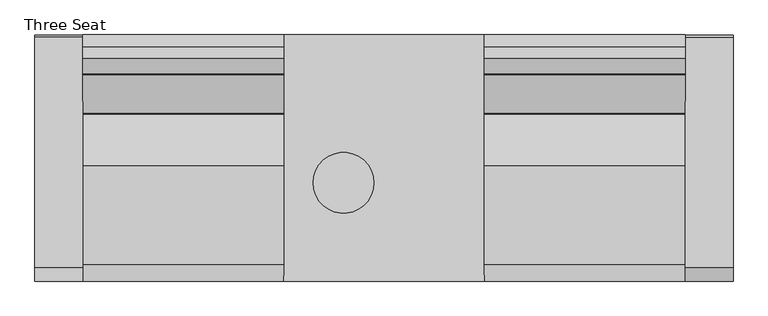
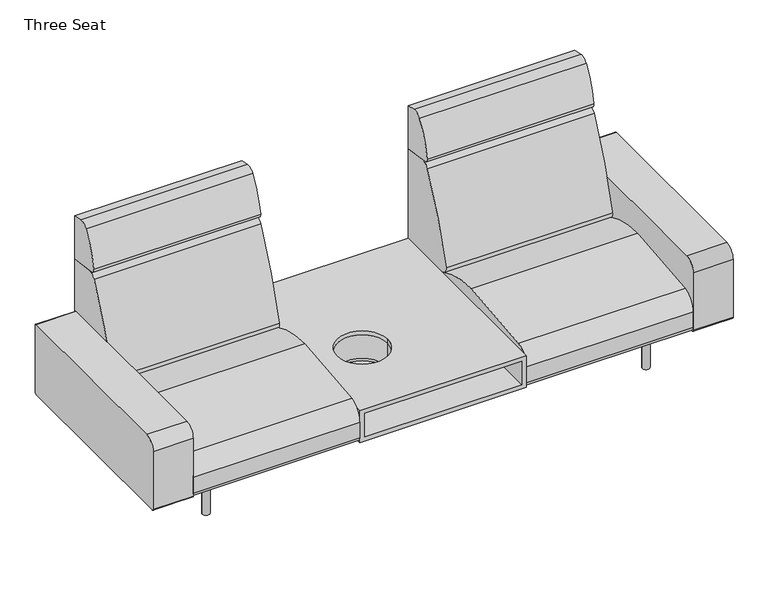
"""IFC4 building model written with IfcOpenShell, lengths in millimetres: furniture geometry, Coalesse_AM_Seating_LoungeChair_Sistema_LegBase_ThreeSeat : Three Seat."""

from ifc_helpers import new_model, si_unit, point, frame, frame_2d, origin, origin_with_axes, place, context, project, spatial, polyline, circle_curve, trimmed, segment, composite_curve, outline, extrude, source, transform, mapped, element, save
from ifc_brep_helpers import plane_surface, revolved_surface, advanced_brep


def three_seat_cafa8f5d(model_context):
    return source(origin(), model_context, "Body", "SolidModel", [
        extrude(outline(composite_curve([segment(polyline([(-461.2704381, 212.4103341), (-461.2704381, 487.0244726)]), True, "CONTINUOUS"), segment(trimmed(circle_curve(frame_2d((-410.4704381, 487.0244726)), 50.8), [point((-461.2704381, 487.0244726))], [point((-410.4704381, 537.8244726))], False, "CARTESIAN"), True, "CONTINUOUS"), segment(polyline([(-410.4704381, 537.8244726), (450.1139321, 537.8244726)]), True, "CONTINUOUS"), segment(trimmed(circle_curve(frame_2d((450.1139321, 530.2044726)), 7.62), [point((450.1139321, 537.8244726))], [point((457.7339321, 530.2044726))], False, "CARTESIAN"), True, "CONTINUOUS"), segment(polyline([(457.7339321, 530.2044726), (457.7339321, 217.4903341)]), True, "CONTINUOUS"), segment(trimmed(circle_curve(frame_2d((445.0339321, 217.4903341)), 12.7), [point((457.7339321, 217.4903341))], [point((445.0339321, 204.7903341))], False, "CARTESIAN"), True, "CONTINUOUS"), segment(polyline([(445.0339321, 204.7903341), (-453.6504381, 204.7903341)]), True, "CONTINUOUS"), segment(trimmed(circle_curve(frame_2d((-453.6504381, 212.4103341)), 7.62), [point((-453.6504381, 204.7903341))], [point((-461.2704381, 212.4103341))], False, "CARTESIAN"), True, "CONTINUOUS")], self_intersect=False)), frame((-554.3698424, 0.0, 0.0), z_axis=(1.0, 0.0, 0.0), x_axis=(0.0, 1.0, 0.0)), (0.0, 0.0, 1.0), 179.5663651),
        extrude(outline(composite_curve([segment(polyline([(459.4795619, 985.4592709), (459.4795619, 780.845009), (327.9700683, 799.327463)]), True, "CONTINUOUS"), segment(trimmed(circle_curve(frame_2d((330.6213159, 818.1920697)), 19.05), [point((327.9700683, 799.327463))], [point((311.7521971, 820.8110119))], False, "CARTESIAN"), True, "CONTINUOUS"), segment(trimmed(circle_curve(frame_2d((679.5815991, 769.7580741)), 371.3554516), [point((311.7521971, 820.8110119))], [point((372.1246101, 978.0249014))], False, "CARTESIAN"), True, "CONTINUOUS"), segment(trimmed(circle_curve(frame_2d((405.8944569, 955.1497055)), 40.7881985), [point((372.1246101, 978.0249014))], [point((414.3748002, 995.046584))], False, "CARTESIAN"), True, "CONTINUOUS"), segment(polyline([(414.3748002, 995.046584), (459.4795619, 985.4592709)]), True, "CONTINUOUS")], self_intersect=False)), frame((-374.8034773, 0.0, 0.0), z_axis=(1.0, 0.0, 0.0), x_axis=(0.0, 1.0, 0.0)), (0.0, 0.0, 1.0), 749.3),
        extrude(outline(composite_curve([segment(polyline([(459.4795619, 780.845009), (459.4795619, 228.1929806)]), True, "CONTINUOUS"), segment(trimmed(circle_curve(frame_2d((191.495971, 228.1929806)), 267.983591), [point((459.4795619, 228.1929806))], [point((458.9860775, 211.937276))], False, "CARTESIAN"), True, "CONTINUOUS"), segment(polyline([(458.9860775, 211.937276), (177.4990556, 364.1028799)]), True, "CONTINUOUS"), segment(trimmed(circle_curve(frame_2d((189.5778307, 386.4470781)), 25.4), [point((177.4990556, 364.1028799))], [point((164.9600055, 392.7018911))], False, "CARTESIAN"), True, "CONTINUOUS"), segment(trimmed(circle_curve(frame_2d((1918.112812, -52.7331923)), 1808.8552115), [point((164.9600055, 392.7018911))], [point((310.2880264, 776.0349508))], False, "CARTESIAN"), True, "CONTINUOUS"), segment(trimmed(circle_curve(frame_2d((344.1537133, 758.5785695)), 38.1), [point((310.2880264, 776.0349508))], [point((349.4562085, 796.3077829))], False, "CARTESIAN"), True, "CONTINUOUS"), segment(polyline([(349.4562085, 796.3077829), (459.4795619, 780.845009)]), True, "CONTINUOUS")], self_intersect=False)), frame((-374.8034773, 0.0, 0.0), z_axis=(1.0, 0.0, 0.0), x_axis=(0.0, 1.0, 0.0)), (0.0, 0.0, 1.0), 749.3),
        extrude(outline(composite_curve([segment(trimmed(circle_curve(frame_2d((-438.9184381, 226.822)), 22.352), [point((-438.9184381, 204.47))], [point((-461.2704381, 226.822))], False, "CARTESIAN"), True, "CONTINUOUS"), segment(polyline([(-461.2704381, 226.822), (-461.2704381, 301.4421993)]), True, "CONTINUOUS"), segment(trimmed(circle_curve(frame_2d((-385.0704381, 301.4421993)), 76.2), [point((-461.2704381, 301.4421993))], [point((-398.9277015, 376.3716077))], False, "CARTESIAN"), True, "CONTINUOUS"), segment(trimmed(circle_curve(frame_2d((2.2103559, -1792.6740646)), 2205.8265729), [point((-398.9277015, 376.3716077))], [point((-31.1968175, 412.8995185))], False, "CARTESIAN"), True, "CONTINUOUS"), segment(trimmed(circle_curve(frame_2d((-24.5128424, -28.3829182)), 441.333054), [point((-31.1968175, 412.8995185))], [point((184.5757008, 360.2774035))], False, "CARTESIAN"), True, "CONTINUOUS"), segment(polyline([(184.5757008, 360.2774035), (458.9860775, 211.937276)]), True, "CONTINUOUS"), segment(trimmed(circle_curve(frame_2d((442.3266309, 226.7871991)), 22.3171991), [point((458.9860775, 211.937276))], [point((442.3266309, 204.47))], False, "CARTESIAN"), True, "CONTINUOUS"), segment(polyline([(442.3266309, 204.47), (-438.9184381, 204.47)]), True, "CONTINUOUS")], self_intersect=False)), frame((-374.8034773, 0.0, 0.0), z_axis=(1.0, 0.0, 0.0), x_axis=(0.0, 1.0, 0.0)), (0.0, 0.0, 1.0), 749.3),
        advanced_brep(
        [(1102.9069667, -461.2704381, 336.5211742), (396.2928302, -461.2704381, 336.5211742), (396.2928302, 459.4795619, 336.5211742), (1102.9069667, 459.4795619, 336.5211742), (711.5952223, -93.7879891, 336.5211742), (484.2332034, -93.7879891, 336.5211742), (396.2928302, -461.2704381, 223.173587), (396.2928302, 459.4795619, 223.173587), (1123.7965227, -461.2704381, 354.7774), (374.4965227, -461.2704381, 354.7774), (374.4965227, -461.2704381, 204.47), (1123.7965227, -461.2704381, 204.47), (1102.9069667, -461.2704381, 223.173587), (1123.7965227, 459.4795619, 354.7774), (1123.7965227, 459.4795619, 204.47), (374.4965227, 459.4795619, 204.47), (374.4965227, 459.4795619, 354.7774), (1102.9069667, 459.4795619, 223.173587), (484.2332034, -93.7879891, 354.7774), (711.5952223, -93.7879891, 354.7774), (484.2332034, -93.7879891, 223.173587), (711.5952223, -93.7879891, 223.173587), (484.2332034, -93.7879891, 212.4123377), (711.5952223, -93.7879891, 212.4123377)],
        [
            (0, 1),
            (1, 2),
            (2, 3),
            (3, 0),
            (4, 5, circle_curve(frame((597.9142128, -93.7879891, 336.5211742), z_axis=(0.0, 0.0, 1.0), x_axis=(1.0, 0.0, 0.0)), 113.6810095)),
            (5, 4, circle_curve(frame((597.9142128, -93.7879891, 336.5211742), z_axis=(0.0, 0.0, 1.0), x_axis=(1.0, 0.0, 0.0)), 113.6810095)),
            (1, 6),
            (6, 7),
            (7, 2),
            (8, 9),
            (9, 10),
            (10, 11),
            (11, 8),
            (0, 12),
            (12, 6),
            (13, 14),
            (14, 15),
            (15, 16),
            (16, 13),
            (7, 17),
            (17, 3),
            (8, 13),
            (16, 9),
            (18, 19, circle_curve(frame((597.9142128, -93.7879891, 354.7774), z_axis=(0.0, 0.0, -1.0), x_axis=(1.0, 0.0, 0.0)), 113.6810095)),
            (19, 18, circle_curve(frame((597.9142128, -93.7879891, 354.7774), z_axis=(0.0, 0.0, -1.0), x_axis=(1.0, 0.0, 0.0)), 113.6810095)),
            (15, 10),
            (14, 11),
            (17, 12),
            (20, 21, circle_curve(frame((597.9142128, -93.7879891, 223.173587), z_axis=(0.0, 0.0, -1.0), x_axis=(1.0, 0.0, 0.0)), 113.6810095)),
            (21, 20, circle_curve(frame((597.9142128, -93.7879891, 223.173587), z_axis=(0.0, 0.0, -1.0), x_axis=(1.0, 0.0, 0.0)), 113.6810095)),
            (22, 23, circle_curve(frame((597.9142128, -93.7879891, 212.4123377), z_axis=(0.0, 0.0, 1.0), x_axis=(1.0, 0.0, 0.0)), 113.6810095)),
            (23, 22, circle_curve(frame((597.9142128, -93.7879891, 212.4123377), z_axis=(0.0, 0.0, 1.0), x_axis=(1.0, 0.0, 0.0)), 113.6810095)),
            (23, 21),
            (20, 22),
            (18, 5),
            (4, 19),
        ],
        [
            plane_surface(frame((396.2928302, -461.2704381, 336.5211742), z_axis=(0.0, 0.0, -1.0), x_axis=(0.0, 1.0, 0.0))),
            plane_surface(frame((396.2928302, -461.2704381, 223.173587), z_axis=(1.0, 0.0, 0.0), x_axis=(0.0, 1.0, 0.0))),
            plane_surface(frame((378.0346424, -461.2704381, 354.7774), z_axis=(0.0, -1.0, 0.0), x_axis=(-1.0, 0.0, 0.0))),
            plane_surface(frame((378.0346424, 459.4795619, 354.7774), z_axis=(0.0, 1.0, 0.0), x_axis=(1.0, 0.0, 0.0))),
            plane_surface(frame((1123.7965227, -461.2704381, 354.7774), z_axis=(0.0, 0.0, 1.0), x_axis=(0.0, 1.0, 0.0))),
            plane_surface(frame((374.4965227, -461.2704381, 354.7774), z_axis=(-1.0, 0.0, 0.0), x_axis=(0.0, 1.0, 0.0))),
            plane_surface(frame((374.4965227, -461.2704381, 204.47), z_axis=(0.0, 0.0, -1.0), x_axis=(0.0, 1.0, 0.0))),
            plane_surface(frame((1123.7965227, -461.2704381, 204.47), z_axis=(1.0, 0.0, 0.0), x_axis=(0.0, 1.0, 0.0))),
            plane_surface(frame((1102.9069667, -461.2704381, 336.5211742), z_axis=(-1.0, 0.0, 0.0), x_axis=(0.0, 1.0, 0.0))),
            plane_surface(frame((1102.9069667, -461.2704381, 223.173587), z_axis=(0.0, 0.0, 1.0), x_axis=(0.0, 1.0, 0.0))),
            plane_surface(frame((711.5952223, -93.7879891, 212.4123377), z_axis=(0.0, 0.0, 1.0), x_axis=(0.0, -1.0, 0.0))),
            revolved_surface(polyline([(711.5952222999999, -93.7879891, 212.41233770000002), (711.5952222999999, -93.7879891, 223.173587)]), (597.9142128, -93.7879891, 496.2226929), (0.0, 0.0, -1.0)),
            revolved_surface(polyline([(711.5952222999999, -93.7879891, 336.5211742), (711.5952222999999, -93.7879891, 354.7774)]), (597.9142128, -93.7879891, 496.2226929), (0.0, 0.0, -1.0)),
        ],
        [
            (0, [[1, 2, 3, 4], [5, 6]]),
            (1, [[7, 8, 9, -2]]),
            (2, [[10, 11, 12, 13], [14, 15, -7, -1]]),
            (3, [[16, 17, 18, 19], [-3, -9, 20, 21]]),
            (4, [[-10, 22, -19, 23], [24, 25]]),
            (5, [[-11, -23, -18, 26]]),
            (6, [[-12, -26, -17, 27]]),
            (7, [[-13, -27, -16, -22]]),
            (8, [[-14, -4, -21, 28]]),
            (9, [[-15, -28, -20, -8], [29, 30]]),
            (10, [[31, 32]]),
            (11, [[-32, 33, -29, 34]]),
            (12, [[35, -5, 36, -24]]),
            (11, [[-31, -34, -30, -33]]),
            (12, [[-35, -25, -36, -6]]),
        ],
    ),
        extrude(outline(composite_curve([segment(trimmed(circle_curve(frame_2d((597.9142128, -93.7879891)), 127.924967), [point((469.9892458, -93.7879891))], [point((725.8391799, -93.7879891))], False, "CARTESIAN"), True, "CONTINUOUS"), segment(trimmed(circle_curve(frame_2d((597.9142128, -93.7879891)), 127.924967), [point((725.8391799, -93.7879891))], [point((469.9892458, -93.7879891))], False, "CARTESIAN"), True, "CONTINUOUS")], self_intersect=False), holes=[composite_curve([segment(trimmed(circle_curve(frame_2d((597.9142128, -93.7879891)), 113.6810095), [point((484.2332034, -93.7879891))], [point((711.5952223, -93.7879891))], True, "CARTESIAN"), True, "CONTINUOUS"), segment(trimmed(circle_curve(frame_2d((597.9142128, -93.7879891)), 113.6810095), [point((711.5952223, -93.7879891))], [point((484.2332034, -93.7879891))], True, "CARTESIAN"), True, "CONTINUOUS")], self_intersect=False)]), frame((0.0, 0.0, 212.4123377), z_axis=(0.0, 0.0, 1.0), x_axis=(1.0, 0.0, 0.0)), (0.0, 0.0, 1.0), 124.1087275),
        extrude(outline(composite_curve([segment(polyline([(-461.2704381, 212.4103341), (-461.2704381, 487.0244726)]), True, "CONTINUOUS"), segment(trimmed(circle_curve(frame_2d((-410.4704381, 487.0244726)), 50.8), [point((-461.2704381, 487.0244726))], [point((-410.4704381, 537.8244726))], False, "CARTESIAN"), True, "CONTINUOUS"), segment(polyline([(-410.4704381, 537.8244726), (450.1139321, 537.8244726)]), True, "CONTINUOUS"), segment(trimmed(circle_curve(frame_2d((450.1139321, 530.2044726)), 7.62), [point((450.1139321, 537.8244726))], [point((457.7339321, 530.2044726))], False, "CARTESIAN"), True, "CONTINUOUS"), segment(polyline([(457.7339321, 530.2044726), (457.7339321, 217.4903341)]), True, "CONTINUOUS"), segment(trimmed(circle_curve(frame_2d((445.0339321, 217.4903341)), 12.7), [point((457.7339321, 217.4903341))], [point((445.0339321, 204.7903341))], False, "CARTESIAN"), True, "CONTINUOUS"), segment(polyline([(445.0339321, 204.7903341), (-453.6504381, 204.7903341)]), True, "CONTINUOUS"), segment(trimmed(circle_curve(frame_2d((-453.6504381, 212.4103341)), 7.62), [point((-453.6504381, 204.7903341))], [point((-461.2704381, 212.4103341))], False, "CARTESIAN"), True, "CONTINUOUS")], self_intersect=False)), frame((1873.0965227, 0.0, 0.0), z_axis=(1.0, 0.0, 0.0), x_axis=(0.0, 1.0, 0.0)), (0.0, 0.0, 1.0), 179.5663651),
        extrude(outline(composite_curve([segment(polyline([(459.4795619, 985.4592709), (459.4795619, 780.845009), (327.9700683, 799.327463)]), True, "CONTINUOUS"), segment(trimmed(circle_curve(frame_2d((330.6213159, 818.1920697)), 19.05), [point((327.9700683, 799.327463))], [point((311.7521971, 820.8110119))], False, "CARTESIAN"), True, "CONTINUOUS"), segment(trimmed(circle_curve(frame_2d((679.5815991, 769.7580741)), 371.3554516), [point((311.7521971, 820.8110119))], [point((372.1246101, 978.0249014))], False, "CARTESIAN"), True, "CONTINUOUS"), segment(trimmed(circle_curve(frame_2d((405.8944569, 955.1497055)), 40.7881985), [point((372.1246101, 978.0249014))], [point((414.3748002, 995.046584))], False, "CARTESIAN"), True, "CONTINUOUS"), segment(polyline([(414.3748002, 995.046584), (459.4795619, 985.4592709)]), True, "CONTINUOUS")], self_intersect=False)), frame((1123.7965227, 0.0, 0.0), z_axis=(1.0, 0.0, 0.0), x_axis=(0.0, 1.0, 0.0)), (0.0, 0.0, 1.0), 749.3),
        extrude(outline(composite_curve([segment(polyline([(459.4795619, 780.845009), (459.4795619, 228.1929806)]), True, "CONTINUOUS"), segment(trimmed(circle_curve(frame_2d((191.495971, 228.1929806)), 267.983591), [point((459.4795619, 228.1929806))], [point((458.9860775, 211.937276))], False, "CARTESIAN"), True, "CONTINUOUS"), segment(polyline([(458.9860775, 211.937276), (177.4990556, 364.1028799)]), True, "CONTINUOUS"), segment(trimmed(circle_curve(frame_2d((189.5778307, 386.4470781)), 25.4), [point((177.4990556, 364.1028799))], [point((164.9600055, 392.7018911))], False, "CARTESIAN"), True, "CONTINUOUS"), segment(trimmed(circle_curve(frame_2d((1918.112812, -52.7331923)), 1808.8552115), [point((164.9600055, 392.7018911))], [point((310.2880264, 776.0349508))], False, "CARTESIAN"), True, "CONTINUOUS"), segment(trimmed(circle_curve(frame_2d((344.1537133, 758.5785695)), 38.1), [point((310.2880264, 776.0349508))], [point((349.4562085, 796.3077829))], False, "CARTESIAN"), True, "CONTINUOUS"), segment(polyline([(349.4562085, 796.3077829), (459.4795619, 780.845009)]), True, "CONTINUOUS")], self_intersect=False)), frame((1123.7965227, 0.0, 0.0), z_axis=(1.0, 0.0, 0.0), x_axis=(0.0, 1.0, 0.0)), (0.0, 0.0, 1.0), 749.3),
        extrude(outline(composite_curve([segment(trimmed(circle_curve(frame_2d((-438.9184381, 226.822)), 22.352), [point((-438.9184381, 204.47))], [point((-461.2704381, 226.822))], False, "CARTESIAN"), True, "CONTINUOUS"), segment(polyline([(-461.2704381, 226.822), (-461.2704381, 301.4421993)]), True, "CONTINUOUS"), segment(trimmed(circle_curve(frame_2d((-385.0704381, 301.4421993)), 76.2), [point((-461.2704381, 301.4421993))], [point((-398.9277015, 376.3716077))], False, "CARTESIAN"), True, "CONTINUOUS"), segment(trimmed(circle_curve(frame_2d((2.2103559, -1792.6740646)), 2205.8265729), [point((-398.9277015, 376.3716077))], [point((-31.1968175, 412.8995185))], False, "CARTESIAN"), True, "CONTINUOUS"), segment(trimmed(circle_curve(frame_2d((-24.5128424, -28.3829182)), 441.333054), [point((-31.1968175, 412.8995185))], [point((184.5757008, 360.2774035))], False, "CARTESIAN"), True, "CONTINUOUS"), segment(polyline([(184.5757008, 360.2774035), (458.9860775, 211.937276)]), True, "CONTINUOUS"), segment(trimmed(circle_curve(frame_2d((442.3266309, 226.7871991)), 22.3171991), [point((458.9860775, 211.937276))], [point((442.3266309, 204.47))], False, "CARTESIAN"), True, "CONTINUOUS"), segment(polyline([(442.3266309, 204.47), (-438.9184381, 204.47)]), True, "CONTINUOUS")], self_intersect=False)), frame((1123.7965227, 0.0, 0.0), z_axis=(1.0, 0.0, 0.0), x_axis=(0.0, 1.0, 0.0)), (0.0, 0.0, 1.0), 749.3),
        extrude(outline(composite_curve([segment(trimmed(circle_curve(frame_2d((1738.4765227, 335.9943389)), 6.096), [point((1744.5725227, 335.9943389))], [point((1732.3805227, 335.9943389))], False, "CARTESIAN"), True, "CONTINUOUS"), segment(trimmed(circle_curve(frame_2d((1738.4765227, 335.9943389)), 6.096), [point((1732.3805227, 335.9943389))], [point((1744.5725227, 335.9943389))], False, "CARTESIAN"), True, "CONTINUOUS")], self_intersect=False)), origin_with_axes(), (0.0, 0.0, 1.0), 4.3662291),
        extrude(outline(composite_curve([segment(trimmed(circle_curve(frame_2d((1738.4765227, -327.2630889)), 6.096), [point((1744.5725227, -327.2630889))], [point((1732.3805227, -327.2630889))], False, "CARTESIAN"), True, "CONTINUOUS"), segment(trimmed(circle_curve(frame_2d((1738.4765227, -327.2630889)), 6.096), [point((1732.3805227, -327.2630889))], [point((1744.5725227, -327.2630889))], False, "CARTESIAN"), True, "CONTINUOUS")], self_intersect=False)), origin_with_axes(), (0.0, 0.0, 1.0), 4.3662291),
        extrude(outline(composite_curve([segment(polyline([(157.0399209, 1751.056375), (201.7356243, 1751.056375)]), True, "CONTINUOUS"), segment(trimmed(circle_curve(frame_2d((201.7356243, 1748.008375)), 3.048), [point((201.7356243, 1751.056375))], [point((204.7836243, 1748.008375))], False, "CARTESIAN"), True, "CONTINUOUS"), segment(polyline([(204.7836243, 1748.008375), (204.7836243, 1728.666199)]), True, "CONTINUOUS"), segment(trimmed(circle_curve(frame_2d((201.7356243, 1728.666199)), 3.048), [point((204.7836243, 1728.666199))], [point((201.7356243, 1725.618199))], False, "CARTESIAN"), True, "CONTINUOUS"), segment(polyline([(201.7356243, 1725.618199), (157.1249936, 1725.618199)]), True, "CONTINUOUS"), segment(trimmed(circle_curve(frame_2d((157.1249936, 1728.7512718)), 3.1330728), [point((157.1249936, 1725.618199))], [point((153.9919209, 1728.7512718))], False, "CARTESIAN"), True, "CONTINUOUS"), segment(polyline([(153.9919209, 1728.7512718), (153.9919209, 1748.008375)]), True, "CONTINUOUS"), segment(trimmed(circle_curve(frame_2d((157.0399209, 1748.008375)), 3.048), [point((153.9919209, 1748.008375))], [point((157.0399209, 1751.056375))], False, "CARTESIAN"), True, "CONTINUOUS")], self_intersect=False)), frame((0.0, 222.3519802, 0.0), z_axis=(0.0, 1.0, 0.0), x_axis=(0.0, 0.0, 1.0)), (0.0, 0.0, 1.0), 92.6273161),
        extrude(outline(composite_curve([segment(polyline([(157.0399209, 1751.056375), (201.7356243, 1751.056375)]), True, "CONTINUOUS"), segment(trimmed(circle_curve(frame_2d((201.7356243, 1748.008375)), 3.048), [point((201.7356243, 1751.056375))], [point((204.7836243, 1748.008375))], False, "CARTESIAN"), True, "CONTINUOUS"), segment(polyline([(204.7836243, 1748.008375), (204.7836243, 1728.666199)]), True, "CONTINUOUS"), segment(trimmed(circle_curve(frame_2d((201.7356243, 1728.666199)), 3.048), [point((204.7836243, 1728.666199))], [point((201.7356243, 1725.618199))], False, "CARTESIAN"), True, "CONTINUOUS"), segment(polyline([(201.7356243, 1725.618199), (157.1249936, 1725.618199)]), True, "CONTINUOUS"), segment(trimmed(circle_curve(frame_2d((157.1249936, 1728.7512718)), 3.1330728), [point((157.1249936, 1725.618199))], [point((153.9919209, 1728.7512718))], False, "CARTESIAN"), True, "CONTINUOUS"), segment(polyline([(153.9919209, 1728.7512718), (153.9919209, 1748.008375)]), True, "CONTINUOUS"), segment(trimmed(circle_curve(frame_2d((157.0399209, 1748.008375)), 3.048), [point((153.9919209, 1748.008375))], [point((157.0399209, 1751.056375))], False, "CARTESIAN"), True, "CONTINUOUS")], self_intersect=False)), frame((0.0, -314.9792963, 0.0), z_axis=(0.0, 1.0, 0.0), x_axis=(0.0, 0.0, 1.0)), (0.0, 0.0, 1.0), 92.6273161),
        extrude(outline(composite_curve([segment(trimmed(circle_curve(frame_2d((176.3356606, 1715.8259944)), 3.048), [point((179.3836606, 1715.8259944))], [point((176.3356606, 1712.7779944))], False, "CARTESIAN"), True, "CONTINUOUS"), segment(polyline([(176.3356606, 1712.7779944), (157.0399209, 1712.7779944)]), True, "CONTINUOUS"), segment(trimmed(circle_curve(frame_2d((157.0399209, 1715.8259944)), 3.048), [point((157.0399209, 1712.7779944))], [point((153.9919209, 1715.8259944))], False, "CARTESIAN"), True, "CONTINUOUS"), segment(polyline([(153.9919209, 1715.8259944), (153.9919209, 1760.5135501)]), True, "CONTINUOUS"), segment(trimmed(circle_curve(frame_2d((157.056462, 1760.5135501)), 3.0645412), [point((153.9919209, 1760.5135501))], [point((157.056462, 1763.5780913))], False, "CARTESIAN"), True, "CONTINUOUS"), segment(polyline([(157.056462, 1763.5780913), (176.3356606, 1763.5780913)]), True, "CONTINUOUS"), segment(trimmed(circle_curve(frame_2d((176.3356606, 1760.5300913)), 3.048), [point((176.3356606, 1763.5780913))], [point((179.3836606, 1760.5300913))], False, "CARTESIAN"), True, "CONTINUOUS"), segment(polyline([(179.3836606, 1760.5300913), (179.3836606, 1715.8259944)]), True, "CONTINUOUS")], self_intersect=False)), frame((0.0, -222.3519802, 0.0), z_axis=(0.0, 1.0, 0.0), x_axis=(0.0, 0.0, 1.0)), (0.0, 0.0, 1.0), 444.7039604),
        extrude(outline(composite_curve([segment(trimmed(circle_curve(frame_2d((1738.4765227, 332.3095741)), 16.51), [point((1754.9865227, 332.3095741))], [point((1721.9665227, 332.3095741))], False, "CARTESIAN"), True, "CONTINUOUS"), segment(trimmed(circle_curve(frame_2d((1738.4765227, 332.3095741)), 16.51), [point((1721.9665227, 332.3095741))], [point((1754.9865227, 332.3095741))], False, "CARTESIAN"), True, "CONTINUOUS")], self_intersect=False)), frame((0.0, 0.0, 4.3662291), z_axis=(0.0, 0.0, 1.0), x_axis=(1.0, 0.0, 0.0)), (0.0, 0.0, 1.0), 200.1037709),
        extrude(outline(composite_curve([segment(trimmed(circle_curve(frame_2d((1738.0796477, -327.5470741)), 16.51), [point((1754.5896477, -327.5470741))], [point((1721.5696477, -327.5470741))], False, "CARTESIAN"), True, "CONTINUOUS"), segment(trimmed(circle_curve(frame_2d((1738.0796477, -327.5470741)), 16.51), [point((1721.5696477, -327.5470741))], [point((1754.5896477, -327.5470741))], False, "CARTESIAN"), True, "CONTINUOUS")], self_intersect=False)), frame((0.0, 0.0, 4.3662291), z_axis=(0.0, 0.0, 1.0), x_axis=(1.0, 0.0, 0.0)), (0.0, 0.0, 1.0), 200.1037709),
        extrude(outline(composite_curve([segment(trimmed(circle_curve(frame_2d((-240.1834773, 335.9943389)), 6.096), [point((-246.2794773, 335.9943389))], [point((-234.0874773, 335.9943389))], False, "CARTESIAN"), True, "CONTINUOUS"), segment(trimmed(circle_curve(frame_2d((-240.1834773, 335.9943389)), 6.096), [point((-234.0874773, 335.9943389))], [point((-246.2794773, 335.9943389))], False, "CARTESIAN"), True, "CONTINUOUS")], self_intersect=False)), origin_with_axes(), (0.0, 0.0, 1.0), 4.3662291),
        extrude(outline(composite_curve([segment(trimmed(circle_curve(frame_2d((-240.1834773, -327.2630889)), 6.096), [point((-246.2794773, -327.2630889))], [point((-234.0874773, -327.2630889))], False, "CARTESIAN"), True, "CONTINUOUS"), segment(trimmed(circle_curve(frame_2d((-240.1834773, -327.2630889)), 6.096), [point((-234.0874773, -327.2630889))], [point((-246.2794773, -327.2630889))], False, "CARTESIAN"), True, "CONTINUOUS")], self_intersect=False)), origin_with_axes(), (0.0, 0.0, 1.0), 4.3662291),
        extrude(outline(composite_curve([segment(trimmed(circle_curve(frame_2d((157.0399209, -249.7153296)), 3.048), [point((157.0399209, -252.7633296))], [point((153.9919209, -249.7153296))], False, "CARTESIAN"), True, "CONTINUOUS"), segment(polyline([(153.9919209, -249.7153296), (153.9919209, -230.4582264)]), True, "CONTINUOUS"), segment(trimmed(circle_curve(frame_2d((157.1249936, -230.4582264)), 3.1330728), [point((153.9919209, -230.4582264))], [point((157.1249936, -227.3251537))], False, "CARTESIAN"), True, "CONTINUOUS"), segment(polyline([(157.1249936, -227.3251537), (201.7356243, -227.3251537)]), True, "CONTINUOUS"), segment(trimmed(circle_curve(frame_2d((201.7356243, -230.3731537)), 3.048), [point((201.7356243, -227.3251537))], [point((204.7836243, -230.3731537))], False, "CARTESIAN"), True, "CONTINUOUS"), segment(polyline([(204.7836243, -230.3731537), (204.7836243, -249.7153296)]), True, "CONTINUOUS"), segment(trimmed(circle_curve(frame_2d((201.7356243, -249.7153296)), 3.048), [point((204.7836243, -249.7153296))], [point((201.7356243, -252.7633296))], False, "CARTESIAN"), True, "CONTINUOUS"), segment(polyline([(201.7356243, -252.7633296), (157.0399209, -252.7633296)]), True, "CONTINUOUS")], self_intersect=False)), frame((0.0, 222.3519802, 0.0), z_axis=(0.0, 1.0, 0.0), x_axis=(0.0, 0.0, 1.0)), (0.0, 0.0, 1.0), 92.6273161),
        extrude(outline(composite_curve([segment(trimmed(circle_curve(frame_2d((157.0399209, -249.7153296)), 3.048), [point((157.0399209, -252.7633296))], [point((153.9919209, -249.7153296))], False, "CARTESIAN"), True, "CONTINUOUS"), segment(polyline([(153.9919209, -249.7153296), (153.9919209, -230.4582264)]), True, "CONTINUOUS"), segment(trimmed(circle_curve(frame_2d((157.1249936, -230.4582264)), 3.1330728), [point((153.9919209, -230.4582264))], [point((157.1249936, -227.3251537))], False, "CARTESIAN"), True, "CONTINUOUS"), segment(polyline([(157.1249936, -227.3251537), (201.7356243, -227.3251537)]), True, "CONTINUOUS"), segment(trimmed(circle_curve(frame_2d((201.7356243, -230.3731537)), 3.048), [point((201.7356243, -227.3251537))], [point((204.7836243, -230.3731537))], False, "CARTESIAN"), True, "CONTINUOUS"), segment(polyline([(204.7836243, -230.3731537), (204.7836243, -249.7153296)]), True, "CONTINUOUS"), segment(trimmed(circle_curve(frame_2d((201.7356243, -249.7153296)), 3.048), [point((204.7836243, -249.7153296))], [point((201.7356243, -252.7633296))], False, "CARTESIAN"), True, "CONTINUOUS"), segment(polyline([(201.7356243, -252.7633296), (157.0399209, -252.7633296)]), True, "CONTINUOUS")], self_intersect=False)), frame((0.0, -314.9792963, 0.0), z_axis=(0.0, 1.0, 0.0), x_axis=(0.0, 0.0, 1.0)), (0.0, 0.0, 1.0), 92.6273161),
        extrude(outline(composite_curve([segment(polyline([(179.3836606, -217.532949), (179.3836606, -262.2370459)]), True, "CONTINUOUS"), segment(trimmed(circle_curve(frame_2d((176.3356606, -262.2370459)), 3.048), [point((179.3836606, -262.2370459))], [point((176.3356606, -265.2850459))], False, "CARTESIAN"), True, "CONTINUOUS"), segment(polyline([(176.3356606, -265.2850459), (157.056462, -265.2850459)]), True, "CONTINUOUS"), segment(trimmed(circle_curve(frame_2d((157.056462, -262.2205047)), 3.0645412), [point((157.056462, -265.2850459))], [point((153.9919209, -262.2205047))], False, "CARTESIAN"), True, "CONTINUOUS"), segment(polyline([(153.9919209, -262.2205047), (153.9919209, -217.532949)]), True, "CONTINUOUS"), segment(trimmed(circle_curve(frame_2d((157.0399209, -217.532949)), 3.048), [point((153.9919209, -217.532949))], [point((157.0399209, -214.484949))], False, "CARTESIAN"), True, "CONTINUOUS"), segment(polyline([(157.0399209, -214.484949), (176.3356606, -214.484949)]), True, "CONTINUOUS"), segment(trimmed(circle_curve(frame_2d((176.3356606, -217.532949)), 3.048), [point((176.3356606, -214.484949))], [point((179.3836606, -217.532949))], False, "CARTESIAN"), True, "CONTINUOUS")], self_intersect=False)), frame((0.0, -222.3519802, 0.0), z_axis=(0.0, 1.0, 0.0), x_axis=(0.0, 0.0, 1.0)), (0.0, 0.0, 1.0), 444.7039604),
        extrude(outline(composite_curve([segment(trimmed(circle_curve(frame_2d((-240.1834773, 332.3095741)), 16.51), [point((-256.6934773, 332.3095741))], [point((-223.6734773, 332.3095741))], False, "CARTESIAN"), True, "CONTINUOUS"), segment(trimmed(circle_curve(frame_2d((-240.1834773, 332.3095741)), 16.51), [point((-223.6734773, 332.3095741))], [point((-256.6934773, 332.3095741))], False, "CARTESIAN"), True, "CONTINUOUS")], self_intersect=False)), frame((0.0, 0.0, 4.3662291), z_axis=(0.0, 0.0, 1.0), x_axis=(1.0, 0.0, 0.0)), (0.0, 0.0, 1.0), 200.1037709),
        extrude(outline(composite_curve([segment(trimmed(circle_curve(frame_2d((-239.7866023, -327.5470741)), 16.51), [point((-256.2966023, -327.5470741))], [point((-223.2766023, -327.5470741))], False, "CARTESIAN"), True, "CONTINUOUS"), segment(trimmed(circle_curve(frame_2d((-239.7866023, -327.5470741)), 16.51), [point((-223.2766023, -327.5470741))], [point((-256.2966023, -327.5470741))], False, "CARTESIAN"), True, "CONTINUOUS")], self_intersect=False)), frame((0.0, 0.0, 4.3662291), z_axis=(0.0, 0.0, 1.0), x_axis=(1.0, 0.0, 0.0)), (0.0, 0.0, 1.0), 200.1037709),
    ])


if __name__ == "__main__":
    model = new_model("IFC4")
    model_context = context("Model", 3, world=origin())
    ifc_project = project(units=[si_unit("LENGTHUNIT", "METRE", prefix="MILLI")], contexts=[model_context])
    site = spatial("IfcSite", under=ifc_project)
    building = spatial("IfcBuilding", under=site)
    placement = place(None, origin())
    three_seat_shape = three_seat_cafa8f5d(model_context)
    element("IfcFurniture", 1, ObjectType="Coalesse_AM_Seating_LoungeChair_Sistema_LegBase_ThreeSeat : Three Seat", at=placement, inside=building, context=model_context, shape_type="MappedRepresentation", body=[
        mapped(three_seat_shape, transform((0.0, 0.0, 0.0), x_axis=(1.0, 0.0, 0.0), y_axis=(0.0, 1.0, 0.0), z_axis=(0.0, 0.0, 1.0))),
    ])
    save(model, "model.ifc")
